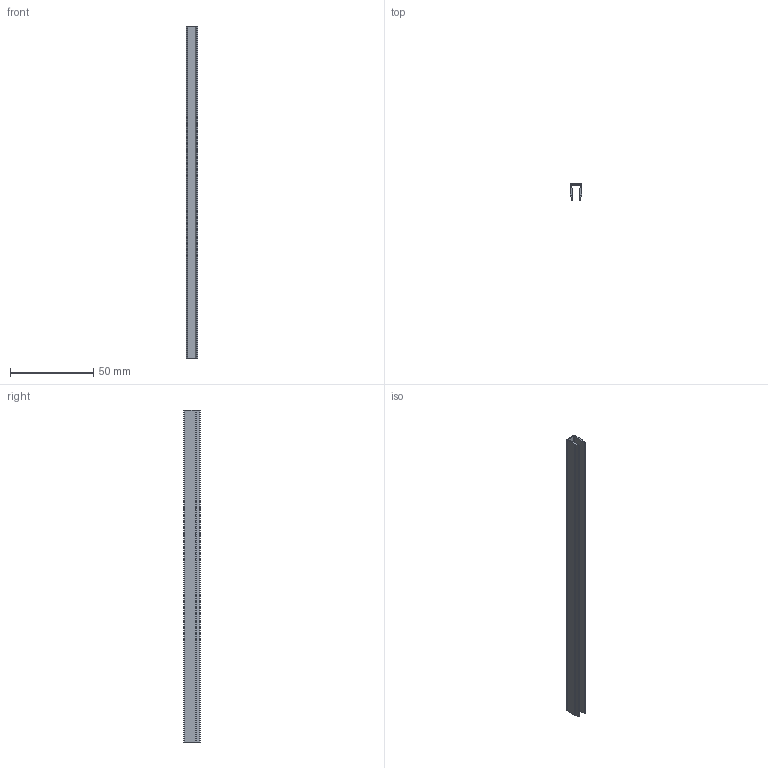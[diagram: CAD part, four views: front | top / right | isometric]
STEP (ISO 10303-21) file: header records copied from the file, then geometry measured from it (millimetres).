
FILE_DESCRIPTION(/* description */ (''),/* implementation_level */ '2;1');
FILE_NAME(/* name */ 'D:\硯聰\02.新型錄-2021\AM6系列\6系列-3D\06.6系列-AMF-飾條配件\AMF-06HP(AB).stp',/* time_stamp */ '2021-07-21T11:08:30+08:00',/* author */ ('Owner'),/* organization */ (''),/* preprocessor_version */ 'ST-DEVELOPER v16.1',/* originating_system */ 'Autodesk Inventor 2016',/* authorisation */ '');
FILE_SCHEMA (('AUTOMOTIVE_DESIGN { 1 0 10303 214 3 1 1 }'));
Length unit declared in the file: millimetre
Products named in the file (1): AMF-06HP(AB)
Bounding box: 6.8 x 9.9 x 200 mm (x, y, z)
Volume: 4281.1 mm3; surface area: 10190.2 mm2
Topology: 1 solids, 1 shells, 22 faces, 60 edges, 40 vertices
Faces by surface type: plane 12, cylinder 10
Entity records: 728 total; most frequent: DIRECTION 126, CARTESIAN_POINT 123, ORIENTED_EDGE 120, EDGE_CURVE 60, AXIS2_PLACEMENT_3D 43, LINE 40, VECTOR 40, VERTEX_POINT 40
